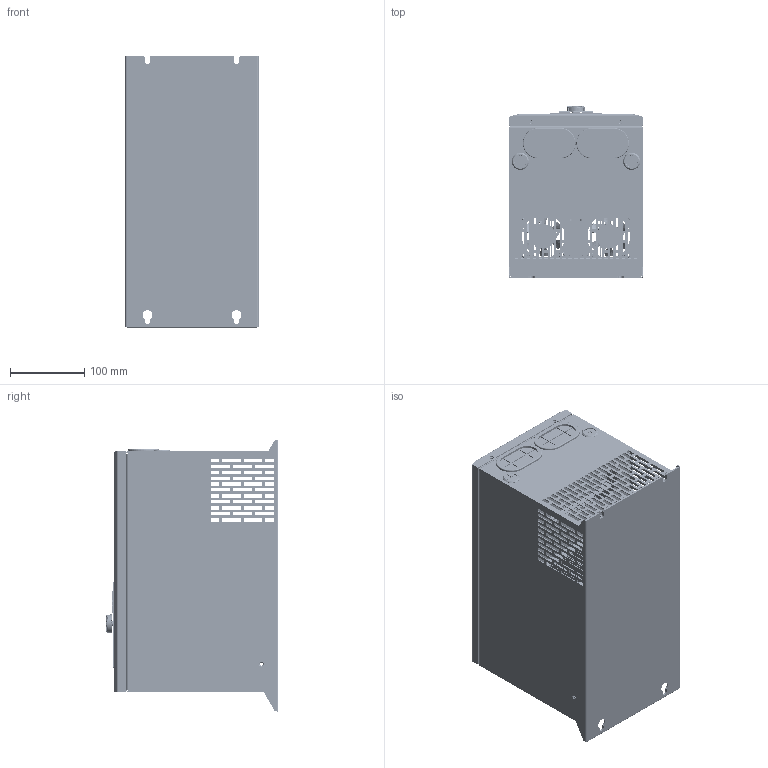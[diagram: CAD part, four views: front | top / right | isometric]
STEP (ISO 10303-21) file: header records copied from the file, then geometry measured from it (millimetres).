
FILE_DESCRIPTION(('STEP AP203'), '1');
FILE_NAME('BU-600-6 _ Òîðìîçíîé ìîäóëü', '2026-04-20T12:46:03', ('admin'), (''), 'C3D Converter', 'C3D Toolkit', '');
FILE_SCHEMA(('CONFIG_CONTROL_DESIGN'));
Length unit declared in the file: millimetre
Products named in the file (53): BU-600-6; CBR600-7T630-SPCC_ASM; CBR600-7T630-201_ASM; CBR600-7T630-301_ASM; CBR600-7T630-301; CBR600-7T630-302_ASM; CBR600-7T630-302; TPS-4-10-ZC; BSO-M4-10-ZC; CBR600-7T630-303_ASM; CBR600-7T630-303; S-M4-ZC; CBR600-4T630-304_ASM; CBR600-4T630-304; CBR600-4T630-305_ASM; CBR600-4T630-305; CBR600-7T630-306; CBR600-4T630-402_ASM; CBR600-4T630-402; CBR600-7T630-403_ASM; CBR600-7T630-403; CBR600-4T630-404_ASM; CBR600-4T630-404; SO-3R5M3-6-ZC; CBR600-4T630-405_ASM; CBR600-4T630-405; S-M5-ZC; CBR600-7T630-SCREW_ASM; M8X20_GB9074_13_ASM; M8X20_GB29_2; D8_GB9074_26; D8_GB9074_24; CBR600-4T630-DEVICE_ASM; GM600-JP_ASM; GM600-JP-SJ_ASM; GM600-JP-SJ-01; GM600-JP-SJ-02; GM600-JP-SJ-03; GM600-JP-SJ-04; GM600-JP-PCB_ASM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
Assembly tree (102 placements, depth 5):
  BU-600-6
    CBR600-7T630-SPCC_ASM
      CBR600-7T630-201_ASM
        CBR600-7T630-301_ASM
          CBR600-7T630-301
        CBR600-7T630-302_ASM
          CBR600-7T630-302
          TPS-4-10-ZC  x2
          BSO-M4-10-ZC  x5
        CBR600-7T630-303_ASM
          CBR600-7T630-303
          S-M4-ZC  x2
        CBR600-4T630-304_ASM  x2
          CBR600-4T630-304
          S-M4-ZC
        CBR600-4T630-305_ASM  x2
          CBR600-4T630-305
          S-M4-ZC
        CBR600-7T630-306
      CBR600-4T630-402_ASM
        CBR600-4T630-402
        TPS-4-10-ZC  x2
      CBR600-7T630-403_ASM
        CBR600-7T630-403
        S-M4-ZC  x12
      CBR600-4T630-404_ASM
        CBR600-4T630-404
        SO-3R5M3-6-ZC  x4
      CBR600-4T630-405_ASM
        CBR600-4T630-405
        S-M5-ZC  x9
    CBR600-7T630-SCREW_ASM
      M8X20_GB9074_13_ASM  x4
        M8X20_GB29_2
        D8_GB9074_26
        D8_GB9074_24
    CBR600-4T630-DEVICE_ASM
      GM600-JP_ASM
        GM600-JP-SJ_ASM
          GM600-JP-SJ-01
          GM600-JP-SJ-02
          GM600-JP-SJ-03
          GM600-JP-SJ-04
        GM600-JP-PCB_ASM
          GM600-JP-PCB
          PCB
          RJ45-GC186556
          LED50361
          DWQ
          ANJIAN  x5
        GM600-JP-SJ-05
        GM600-JP-SJ-06
      FAN_6025  x2
      ACTB010-B  x4
      HXQ_18  x2
      352-05_8  x2
    CBR600-4T630-401
Bounding box: 180 x 232.8 x 366.2 mm (x, y, z)
Volume: 1538102.4 mm3; surface area: 1754439.4 mm2
Topology: 97 solids, 104 shells, 16403 faces, 44261 edges, 28797 vertices
Faces by surface type: plane 13081, cylinder 1687, bspline 1028, cone 373, torus 126, extrusion 68, sphere 30, revolution 10
Full cylindrical faces by diameter (mm): 0.5 x18, 0.9 x8, 1 x24, 1.5 x1, 2 x8, 2.3 x5, 2.54 x1, 3 x14, 3.3 x1, 3.5 x5, 3.8 x4, 4 x41, 4.3 x16, 4.5 x2, 4.8 x5, 5 x34, 5.38 x22, 5.39 x4, 5.4 x28, 5.5 x16, 6 x17, 6.38 x9, 6.4 x1, 6.5 x4, 6.647 x4, 6.8 x1, 7.11 x5, 7.2 x5, 8 x34, 9 x9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
Entity records: 382442 total; most frequent: CARTESIAN_POINT 138235, ORIENTED_EDGE 39920, DIRECTION 31606, EDGE_CURVE 19966, VECTOR 14024, LINE 13956, VERTEX_POINT 12899, EDGE_LOOP 8882
